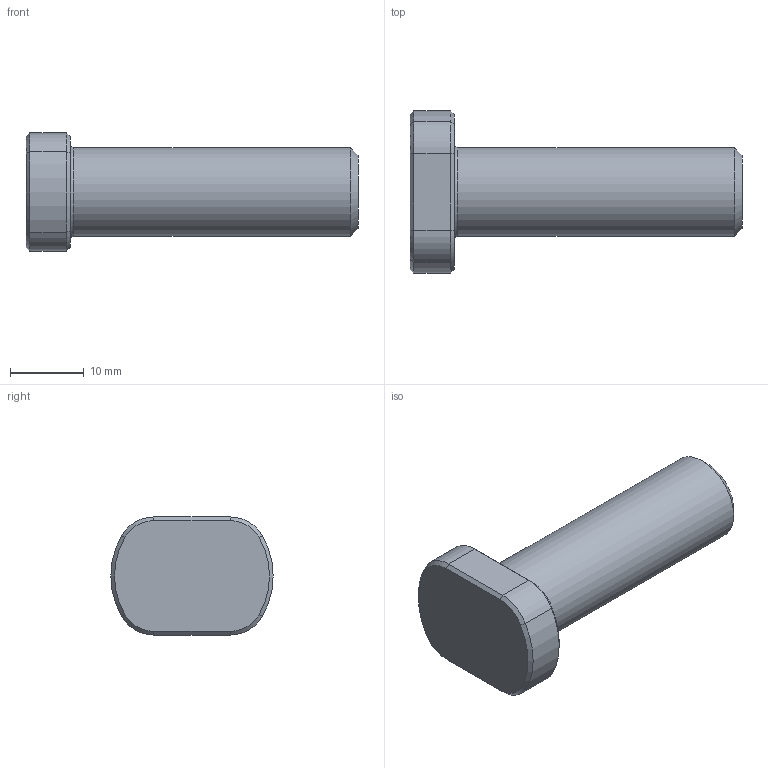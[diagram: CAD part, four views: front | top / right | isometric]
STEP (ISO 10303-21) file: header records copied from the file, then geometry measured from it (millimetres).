
FILE_DESCRIPTION(/* description */ ('STEP AP214'),/* implementation_level */ '2;1');
FILE_NAME(/* name */ 'F15141245',/* time_stamp */ '2024-09-04T15:35:03+02:00',/* author */ ('License CC BY-ND 4.0'),/* organization */ ('CADENAS'),/* preprocessor_version */ 'ST-DEVELOPER v19.3',/* originating_system */ 'PARTsolutions',/* authorisation */ ' ');
FILE_SCHEMA (('AUTOMOTIVE_DESIGN {1 0 10303 214 3 1 1}'));
Length unit declared in the file: millimetre
Products named in the file (1): F15141245
Bounding box: 45 x 22 x 16 mm (x, y, z)
Volume: 6261.5 mm3; surface area: 2415.4 mm2
Topology: 1 solids, 1 shells, 30 faces, 63 edges, 36 vertices
Faces by surface type: cone 13, plane 9, cylinder 7, torus 1
Full cylindrical faces by diameter (mm): 12 x1
Entity records: 806 total; most frequent: DIRECTION 150, CARTESIAN_POINT 127, ORIENTED_EDGE 120, EDGE_CURVE 60, AXIS2_PLACEMENT_3D 59, VERTEX_POINT 36, EDGE_LOOP 34, FACE_BOUND 34
